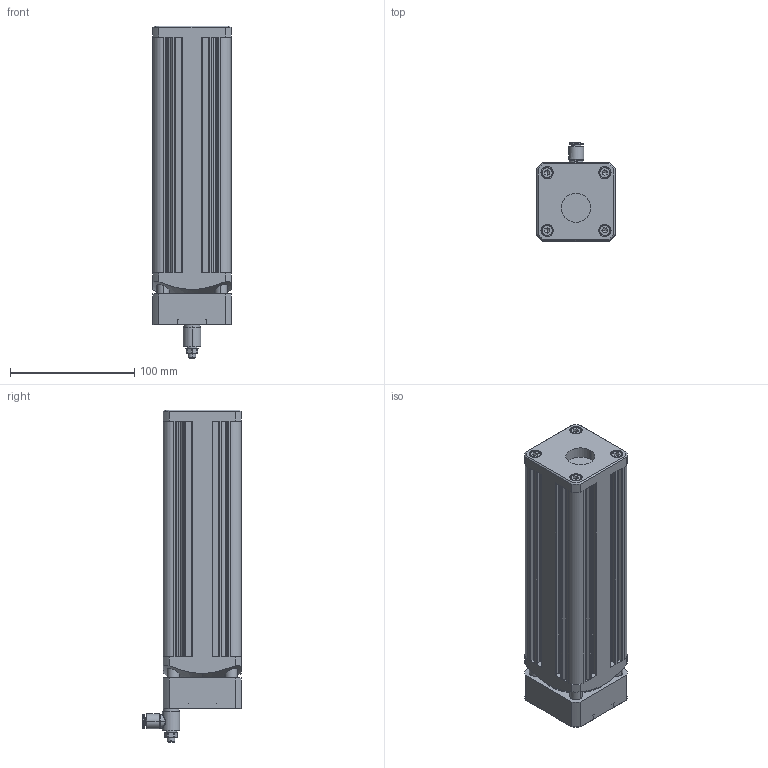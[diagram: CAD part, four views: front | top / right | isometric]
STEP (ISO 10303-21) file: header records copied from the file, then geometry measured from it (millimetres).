
FILE_DESCRIPTION (( 'STEP AP203' ), '1' );
FILE_NAME ('VNOK-C-AL-E-0050-0190.STEP', '2019-02-06T13:00:52', ( '' ), ( '' ), 'SwSTEP 2.0', 'SolidWorks 2018', '' );
FILE_SCHEMA (( 'CONFIG_CONTROL_DESIGN' ));
Length unit declared in the file: millimetre
Products named in the file (1): VNOK-C-AL-E-0050-0190
Bounding box: 63 x 79.28 x 267.6 mm (x, y, z)
Volume: 870954.1 mm3; surface area: 97658 mm2
Topology: 1 solids, 20 shells, 841 faces, 2114 edges, 1336 vertices
Faces by surface type: plane 422, cylinder 285, cone 70, bspline 64
Entity records: 28914 total; most frequent: CARTESIAN_POINT 8597, DIRECTION 4369, ORIENTED_EDGE 4164, EDGE_CURVE 2082, AXIS2_PLACEMENT_3D 1651, VERTEX_POINT 1336, VECTOR 1067, LINE 1067
